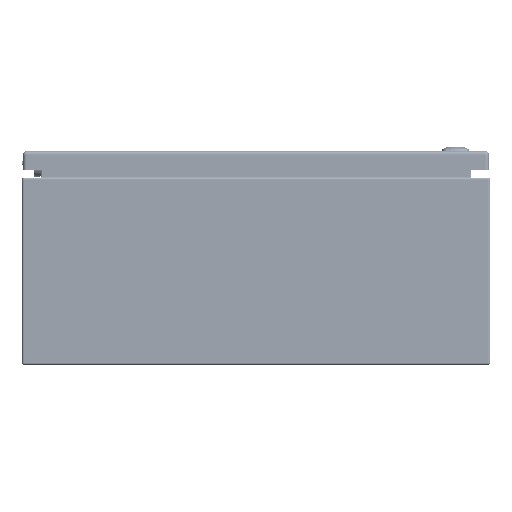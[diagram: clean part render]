
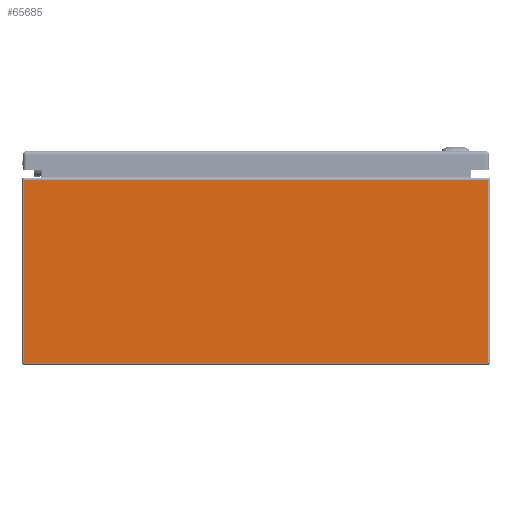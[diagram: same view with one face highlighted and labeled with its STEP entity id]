
A CAD part, front view. The second image highlights one B-rep face of the part: STEP entity #65685.
In plain terms, the highlighted planar face has unit normal (0, -1, 0).
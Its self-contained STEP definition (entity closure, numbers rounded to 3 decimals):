
#6372=LINE('',#92125,#10417);
#6379=LINE('',#92140,#10424);
#6381=LINE('',#92147,#10426);
#6383=LINE('',#92156,#10428);
#10417=VECTOR('',#76521,0.394);
#10424=VECTOR('',#76534,0.394);
#10426=VECTOR('',#76542,0.394);
#10428=VECTOR('',#76554,0.394);
#15513=FACE_OUTER_BOUND('',#19549,.T.);
#19549=EDGE_LOOP('',(#43714,#43715,#43716,#43717));
#26346=VERTEX_POINT('',#92095);
#26353=VERTEX_POINT('',#92121);
#26358=VERTEX_POINT('',#92139);
#26360=VERTEX_POINT('',#92145);
#33067=EDGE_CURVE('',#26346,#26353,#6372,.T.);
#33074=EDGE_CURVE('',#26353,#26358,#6379,.T.);
#33078=EDGE_CURVE('',#26360,#26346,#6381,.T.);
#33083=EDGE_CURVE('',#26360,#26358,#6383,.T.);
#43714=ORIENTED_EDGE('',*,*,#33067,.F.);
#43715=ORIENTED_EDGE('',*,*,#33078,.F.);
#43716=ORIENTED_EDGE('',*,*,#33083,.T.);
#43717=ORIENTED_EDGE('',*,*,#33074,.F.);
#64281=PLANE('',#70618);
#65685=ADVANCED_FACE('',(#15513),#64281,.F.);
#70618=AXIS2_PLACEMENT_3D('',#92167,#76568,#76569);
#76521=DIRECTION('',(1.,0.,0.));
#76534=DIRECTION('',(0.,0.,-1.));
#76542=DIRECTION('',(0.,0.,1.));
#76554=DIRECTION('',(1.,0.,0.));
#76568=DIRECTION('center_axis',(0.,1.,0.));
#76569=DIRECTION('ref_axis',(0.,0.,1.));
#92095=CARTESIAN_POINT('',(-9.916,-15.,7.916));
#92121=CARTESIAN_POINT('',(9.916,-15.,7.916));
#92125=CARTESIAN_POINT('',(4.979,-15.,7.916));
#92139=CARTESIAN_POINT('',(9.916,-15.,0.084));
#92140=CARTESIAN_POINT('',(9.916,-15.,4.));
#92145=CARTESIAN_POINT('',(-9.916,-15.,0.084));
#92147=CARTESIAN_POINT('',(-9.916,-15.,4.));
#92156=CARTESIAN_POINT('',(-4.958,-15.,0.084));
#92167=CARTESIAN_POINT('Origin',(0.,-15.,4.));
